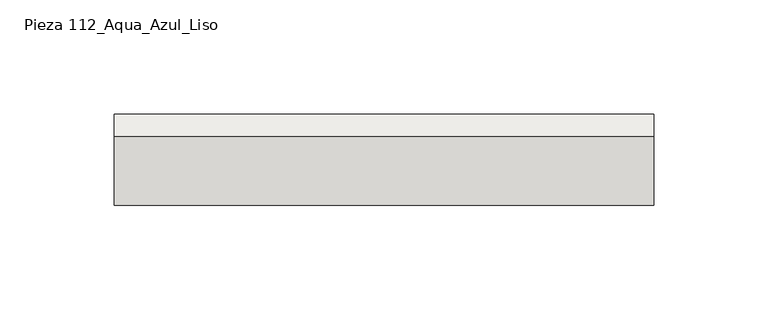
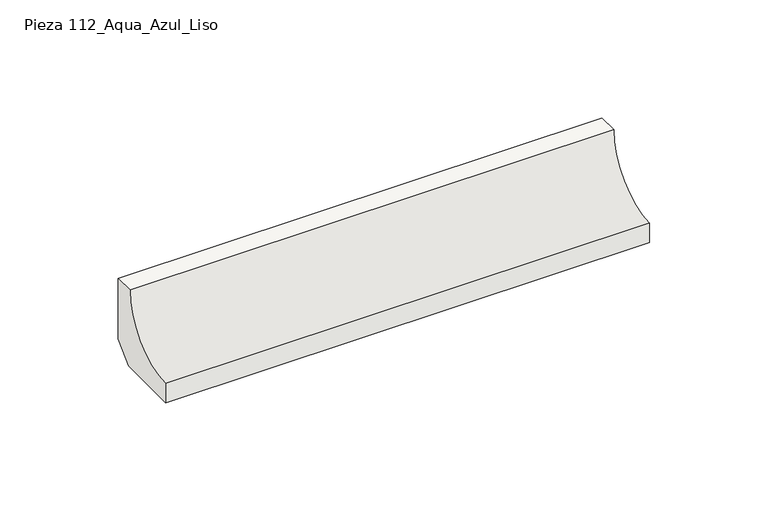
"""IFC4 building model written with IfcOpenShell, lengths in millimetres: slab geometry, ROSA GRES_112 : Pieza 112_Aqua_Azul_Liso."""

from ifc_helpers import new_model, si_unit, point, frame, frame_2d, origin, place, context, project, spatial, polyline, circle_curve, trimmed, segment, composite_curve, outline, extrude, source, transform, mapped, element, save


def pieza_112_aqua_azul_liso_4afd4aa3(model_context):
    return source(origin(), model_context, "Body", "SweptSolid", [
        extrude(outline(composite_curve([segment(polyline([(0.0, 8.7114978), (-8.7114978, 0.0), (-40.0, 0.0), (-40.0, 9.9734114)]), True, "CONTINUOUS"), segment(trimmed(circle_curve(frame_2d((-39.9955547, 39.9955547)), 30.0221435), [point((-40.0, 9.9734114))], [point((-9.9734114, 40.0))], True, "CARTESIAN"), True, "CONTINUOUS"), segment(polyline([(-9.9734114, 40.0), (0.0, 40.0), (0.0, 8.7114978)]), True, "CONTINUOUS")], self_intersect=False)), frame((0.0, 0.0, 0.0), z_axis=(1.0, 0.0, 0.0), x_axis=(0.0, 1.0, 0.0)), (0.0, 0.0, 1.0), 236.4468229),
    ])


if __name__ == "__main__":
    model = new_model("IFC4")
    model_context = context("Model", 3, world=origin())
    ifc_project = project(units=[si_unit("LENGTHUNIT", "METRE", prefix="MILLI")], contexts=[model_context])
    site = spatial("IfcSite", under=ifc_project)
    building = spatial("IfcBuilding", under=site)
    placement = place(None, origin())
    pieza_112_aqua_azul_liso_shape = pieza_112_aqua_azul_liso_4afd4aa3(model_context)
    element("IfcSlab", 1, ObjectType="ROSA GRES_112 : Pieza 112_Aqua_Azul_Liso", at=placement, inside=building, context=model_context, shape_type="MappedRepresentation", body=[
        mapped(pieza_112_aqua_azul_liso_shape, transform((0.0, 0.0, 0.0), x_axis=(1.0, 0.0, 0.0), y_axis=(0.0, 1.0, 0.0), z_axis=(0.0, 0.0, 1.0))),
    ])
    save(model, "model.ifc")
